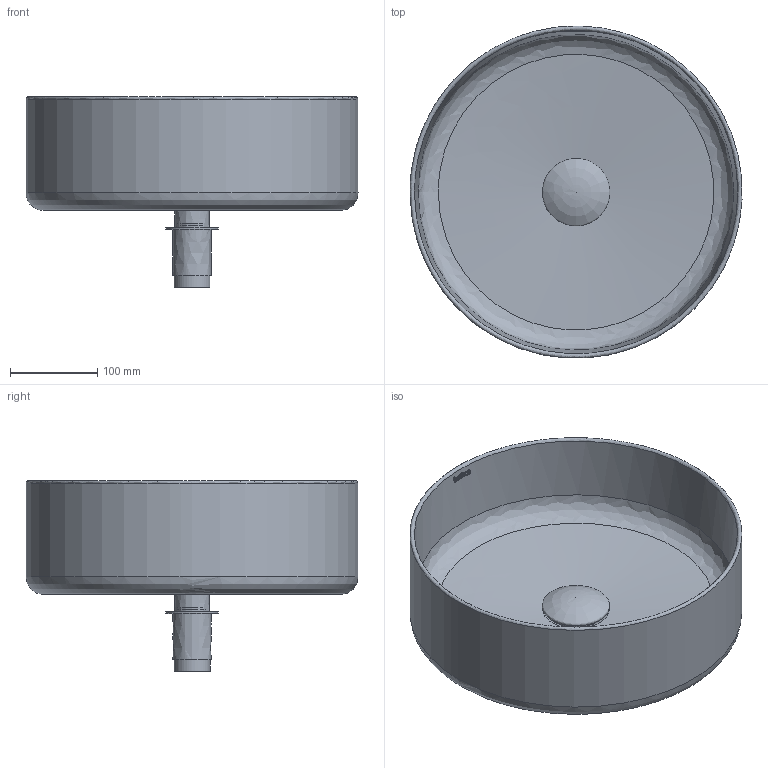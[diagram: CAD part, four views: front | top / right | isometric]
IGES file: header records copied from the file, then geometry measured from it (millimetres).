
Global section: file name: C:\Users\hp\Desktop\Bathco_New Stone Classic Washbasins Cylindrical_29092025_EXP.igs; native system: Rhinoceros ( Sep  8 2025 ); preprocessor: Trout Lake IGES 012 Sep  8 2025; date: 250929.084305; units: millimetre
Bounding box: 379.82 x 379.68 x 217.75 mm (x, y, z)
Surface area: 551593.8 mm2 (no closed solid volume)
Topology: 0 solids, 0 shells, 174 faces, 846 edges, 764 vertices
Faces by surface type: bspline 174
